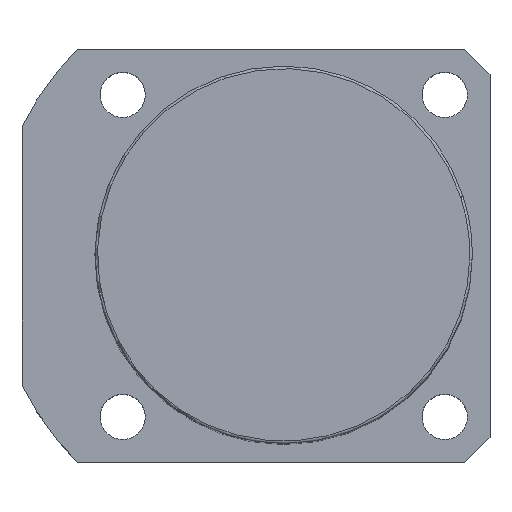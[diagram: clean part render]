
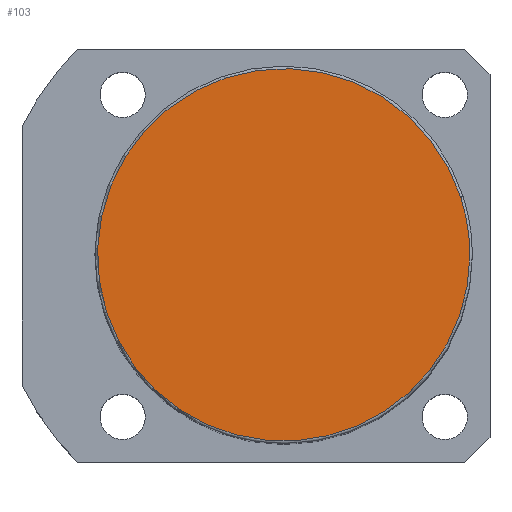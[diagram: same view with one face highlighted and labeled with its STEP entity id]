
A CAD part, top view. The second image highlights one B-rep face of the part: STEP entity #103.
In plain terms, the highlighted planar face has unit normal (0, 0, 1).
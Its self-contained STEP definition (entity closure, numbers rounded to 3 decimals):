
#16=CARTESIAN_POINT('',(-35.189,-11.434,133.0));
#17=VERTEX_POINT('',#16);
#54=CARTESIAN_POINT('',(35.189,11.434,133.0));
#55=VERTEX_POINT('',#54);
#63=CARTESIAN_POINT('',(37.0,0.0,133.0));
#64=VERTEX_POINT('',#63);
#65=CARTESIAN_POINT('',(0.0,0.0,133.0));
#66=DIRECTION('',(0.0,0.0,1.0));
#67=DIRECTION('',(1.0,0.0,0.0));
#68=AXIS2_PLACEMENT_3D('',#65,#66,#67);
#69=CIRCLE('',#68,37.0);
#70=EDGE_CURVE('no 898',#64,#55,#69,.T.);
#72=CARTESIAN_POINT('',(0.0,0.0,133.0));
#73=DIRECTION('',(0.0,0.0,1.0));
#74=DIRECTION('',(1.0,0.0,0.0));
#75=AXIS2_PLACEMENT_3D('',#72,#73,#74);
#76=CIRCLE('',#75,37.0);
#77=EDGE_CURVE('no 902',#17,#64,#76,.T.);
#87=ORIENTED_EDGE('',*,*,#70,.T.);
#88=CARTESIAN_POINT('',(0.0,0.0,133.0));
#89=DIRECTION('',(0.0,0.0,1.0));
#90=DIRECTION('',(1.0,0.0,0.0));
#91=AXIS2_PLACEMENT_3D('',#88,#89,#90);
#92=CIRCLE('',#91,37.0);
#93=EDGE_CURVE('no 911',#55,#17,#92,.T.);
#94=ORIENTED_EDGE('',*,*,#93,.T.);
#95=ORIENTED_EDGE('',*,*,#77,.T.);
#96=EDGE_LOOP('',(#87,#94,#95));
#97=FACE_OUTER_BOUND('',#96,.T.);
#98=CARTESIAN_POINT('',(0.0,0.0,133.0));
#99=DIRECTION('',(0.0,0.0,1.0));
#100=DIRECTION('',(1.0,0.0,0.0));
#101=AXIS2_PLACEMENT_3D('',#98,#99,#100);
#102=PLANE('',#101);
#103=ADVANCED_FACE('no 904',(#97),#102,.T.);
